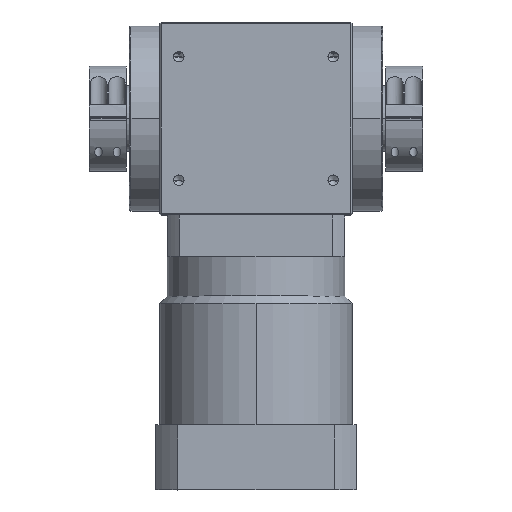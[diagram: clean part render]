
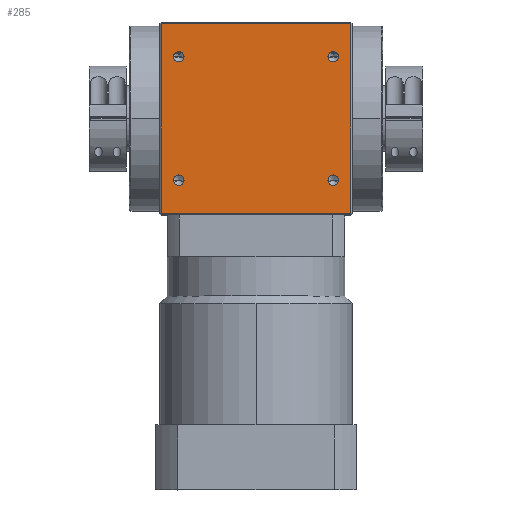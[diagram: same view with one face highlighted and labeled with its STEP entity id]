
A CAD part, top view. The second image highlights one B-rep face of the part: STEP entity #285.
In plain terms, the highlighted planar face has unit normal (0, 0, 1).
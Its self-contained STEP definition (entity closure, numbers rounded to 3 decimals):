
#61 = AXIS2_PLACEMENT_3D ( 'NONE', #7403, #7208, #7321 ) ;
#173 = DIRECTION ( 'NONE',  ( 1., 0., 0. ) ) ;
#228 = DIRECTION ( 'NONE',  ( 0., 0., 1. ) ) ;
#236 = VERTEX_POINT ( 'NONE', #3472 ) ;
#237 = VECTOR ( 'NONE', #3356, 1000. ) ;
#262 = CARTESIAN_POINT ( 'NONE',  ( -50., 40., 62.5 ) ) ;
#285 = ADVANCED_FACE ( 'NONE', ( #4765, #4775, #4726, #4715, #4699 ), #3722, .F. ) ;
#288 = ORIENTED_EDGE ( 'NONE', *, *, #5711, .F. ) ;
#391 = CIRCLE ( 'NONE', #6848, 3.4 ) ;
#509 = DIRECTION ( 'NONE',  ( 1., 0., 0. ) ) ;
#613 = CARTESIAN_POINT ( 'NONE',  ( 0., 61.5, 62.5 ) ) ;
#617 = LINE ( 'NONE', #3891, #237 ) ;
#747 = VERTEX_POINT ( 'NONE', #5891 ) ;
#816 = DIRECTION ( 'NONE',  ( 1., 0., 0. ) ) ;
#825 = DIRECTION ( 'NONE',  ( 0., 0., 1. ) ) ;
#834 = EDGE_CURVE ( 'NONE', #4319, #1644, #3752, .T. ) ;
#839 = VERTEX_POINT ( 'NONE', #5647 ) ;
#852 = ORIENTED_EDGE ( 'NONE', *, *, #4789, .F. ) ;
#857 = CIRCLE ( 'NONE', #1361, 3.4 ) ;
#894 = VERTEX_POINT ( 'NONE', #6917 ) ;
#926 = CARTESIAN_POINT ( 'NONE',  ( -50., -40., 62.5 ) ) ;
#972 = CARTESIAN_POINT ( 'NONE',  ( 0., -61.5, 62.5 ) ) ;
#1041 = ORIENTED_EDGE ( 'NONE', *, *, #5877, .F. ) ;
#1361 = AXIS2_PLACEMENT_3D ( 'NONE', #7053, #7066, #7072 ) ;
#1395 = DIRECTION ( 'NONE',  ( 1., 0., 0. ) ) ;
#1525 = CIRCLE ( 'NONE', #61, 3.4 ) ;
#1530 = ORIENTED_EDGE ( 'NONE', *, *, #5812, .F. ) ;
#1644 = VERTEX_POINT ( 'NONE', #1992 ) ;
#1750 = ORIENTED_EDGE ( 'NONE', *, *, #6951, .T. ) ;
#1811 = VERTEX_POINT ( 'NONE', #2889 ) ;
#1835 = CARTESIAN_POINT ( 'NONE',  ( -61.5, -61.5, 62.5 ) ) ;
#1992 = CARTESIAN_POINT ( 'NONE',  ( -61.5, 61.5, 62.5 ) ) ;
#2238 = VERTEX_POINT ( 'NONE', #5270 ) ;
#2268 = VERTEX_POINT ( 'NONE', #5361 ) ;
#2413 = CIRCLE ( 'NONE', #4937, 3.4 ) ;
#2527 = VERTEX_POINT ( 'NONE', #6632 ) ;
#2546 = ORIENTED_EDGE ( 'NONE', *, *, #834, .F. ) ;
#2830 = VECTOR ( 'NONE', #1395, 1000. ) ;
#2863 = ORIENTED_EDGE ( 'NONE', *, *, #4160, .F. ) ;
#2889 = CARTESIAN_POINT ( 'NONE',  ( -46.6, -40., 62.5 ) ) ;
#3043 = AXIS2_PLACEMENT_3D ( 'NONE', #5699, #5076, #5736 ) ;
#3356 = DIRECTION ( 'NONE',  ( 0., -1., 0. ) ) ;
#3472 = CARTESIAN_POINT ( 'NONE',  ( 46.6, -40., 62.5 ) ) ;
#3481 = AXIS2_PLACEMENT_3D ( 'NONE', #262, #228, #173 ) ;
#3621 = VECTOR ( 'NONE', #509, 1000. ) ;
#3711 = CIRCLE ( 'NONE', #3481, 3.4 ) ;
#3722 = PLANE ( 'NONE',  #7395 ) ;
#3752 = LINE ( 'NONE', #6521, #3766 ) ;
#3754 = CARTESIAN_POINT ( 'NONE',  ( 61.5, -61.5, 62.5 ) ) ;
#3766 = VECTOR ( 'NONE', #6509, 1000. ) ;
#3790 = ORIENTED_EDGE ( 'NONE', *, *, #4463, .F. ) ;
#3802 = LINE ( 'NONE', #613, #3621 ) ;
#3809 = DIRECTION ( 'NONE',  ( 0., 0., -1. ) ) ;
#3810 = DIRECTION ( 'NONE',  ( -1., 0., 0. ) ) ;
#3827 = DIRECTION ( 'NONE',  ( 1., 0., 0. ) ) ;
#3841 = DIRECTION ( 'NONE',  ( 0., 0., 1. ) ) ;
#3853 = CARTESIAN_POINT ( 'NONE',  ( 50., 40., 62.5 ) ) ;
#3891 = CARTESIAN_POINT ( 'NONE',  ( 61.5, 0., 62.5 ) ) ;
#3988 = EDGE_CURVE ( 'NONE', #839, #2268, #6646, .T. ) ;
#4061 = AXIS2_PLACEMENT_3D ( 'NONE', #5818, #5825, #5834 ) ;
#4160 = EDGE_CURVE ( 'NONE', #1811, #5350, #857, .T. ) ;
#4288 = LINE ( 'NONE', #972, #2830 ) ;
#4319 = VERTEX_POINT ( 'NONE', #1835 ) ;
#4330 = EDGE_LOOP ( 'NONE', ( #1530, #3790 ) ) ;
#4463 = EDGE_CURVE ( 'NONE', #236, #894, #7315, .T. ) ;
#4604 = EDGE_CURVE ( 'NONE', #5350, #1811, #391, .T. ) ;
#4699 = FACE_OUTER_BOUND ( 'NONE', #4871, .T. ) ;
#4715 = FACE_BOUND ( 'NONE', #5744, .T. ) ;
#4726 = FACE_BOUND ( 'NONE', #5027, .T. ) ;
#4751 = AXIS2_PLACEMENT_3D ( 'NONE', #3853, #3841, #3827 ) ;
#4765 = FACE_BOUND ( 'NONE', #4330, .T. ) ;
#4775 = FACE_BOUND ( 'NONE', #4815, .T. ) ;
#4778 = DIRECTION ( 'NONE',  ( 1., 0., 0. ) ) ;
#4789 = EDGE_CURVE ( 'NONE', #2268, #839, #7004, .T. ) ;
#4803 = DIRECTION ( 'NONE',  ( 0., 0., 1. ) ) ;
#4815 = EDGE_LOOP ( 'NONE', ( #2863, #6171 ) ) ;
#4830 = CARTESIAN_POINT ( 'NONE',  ( -53.4, -40., 62.5 ) ) ;
#4852 = CARTESIAN_POINT ( 'NONE',  ( 50., -40., 62.5 ) ) ;
#4871 = EDGE_LOOP ( 'NONE', ( #1750, #1041, #288, #2546 ) ) ;
#4872 = EDGE_CURVE ( 'NONE', #6915, #747, #1525, .T. ) ;
#4937 = AXIS2_PLACEMENT_3D ( 'NONE', #4852, #4803, #4778 ) ;
#5027 = EDGE_LOOP ( 'NONE', ( #5084, #852 ) ) ;
#5076 = DIRECTION ( 'NONE',  ( 0., 0., 1. ) ) ;
#5084 = ORIENTED_EDGE ( 'NONE', *, *, #3988, .F. ) ;
#5270 = CARTESIAN_POINT ( 'NONE',  ( 61.5, 61.5, 62.5 ) ) ;
#5350 = VERTEX_POINT ( 'NONE', #4830 ) ;
#5361 = CARTESIAN_POINT ( 'NONE',  ( 46.6, 40., 62.5 ) ) ;
#5647 = CARTESIAN_POINT ( 'NONE',  ( 53.4, 40., 62.5 ) ) ;
#5699 = CARTESIAN_POINT ( 'NONE',  ( 50., -40., 62.5 ) ) ;
#5711 = EDGE_CURVE ( 'NONE', #1644, #2238, #3802, .T. ) ;
#5725 = EDGE_CURVE ( 'NONE', #747, #6915, #3711, .T. ) ;
#5736 = DIRECTION ( 'NONE',  ( 1., 0., 0. ) ) ;
#5744 = EDGE_LOOP ( 'NONE', ( #7203, #6464 ) ) ;
#5812 = EDGE_CURVE ( 'NONE', #894, #236, #2413, .T. ) ;
#5818 = CARTESIAN_POINT ( 'NONE',  ( 50., 40., 62.5 ) ) ;
#5825 = DIRECTION ( 'NONE',  ( 0., 0., 1. ) ) ;
#5834 = DIRECTION ( 'NONE',  ( 1., 0., 0. ) ) ;
#5877 = EDGE_CURVE ( 'NONE', #2238, #2527, #617, .T. ) ;
#5891 = CARTESIAN_POINT ( 'NONE',  ( -46.6, 40., 62.5 ) ) ;
#6110 = CARTESIAN_POINT ( 'NONE',  ( -53.4, 40., 62.5 ) ) ;
#6171 = ORIENTED_EDGE ( 'NONE', *, *, #4604, .F. ) ;
#6464 = ORIENTED_EDGE ( 'NONE', *, *, #4872, .F. ) ;
#6509 = DIRECTION ( 'NONE',  ( 0., 1., 0. ) ) ;
#6521 = CARTESIAN_POINT ( 'NONE',  ( -61.5, 0., 62.5 ) ) ;
#6632 = CARTESIAN_POINT ( 'NONE',  ( 61.5, -61.5, 62.5 ) ) ;
#6646 = CIRCLE ( 'NONE', #4061, 3.4 ) ;
#6848 = AXIS2_PLACEMENT_3D ( 'NONE', #926, #825, #816 ) ;
#6915 = VERTEX_POINT ( 'NONE', #6110 ) ;
#6917 = CARTESIAN_POINT ( 'NONE',  ( 53.4, -40., 62.5 ) ) ;
#6951 = EDGE_CURVE ( 'NONE', #4319, #2527, #4288, .T. ) ;
#7004 = CIRCLE ( 'NONE', #4751, 3.4 ) ;
#7053 = CARTESIAN_POINT ( 'NONE',  ( -50., -40., 62.5 ) ) ;
#7066 = DIRECTION ( 'NONE',  ( 0., 0., 1. ) ) ;
#7072 = DIRECTION ( 'NONE',  ( 1., 0., 0. ) ) ;
#7203 = ORIENTED_EDGE ( 'NONE', *, *, #5725, .F. ) ;
#7208 = DIRECTION ( 'NONE',  ( 0., 0., 1. ) ) ;
#7315 = CIRCLE ( 'NONE', #3043, 3.4 ) ;
#7321 = DIRECTION ( 'NONE',  ( 1., 0., 0. ) ) ;
#7395 = AXIS2_PLACEMENT_3D ( 'NONE', #3754, #3809, #3810 ) ;
#7403 = CARTESIAN_POINT ( 'NONE',  ( -50., 40., 62.5 ) ) ;
